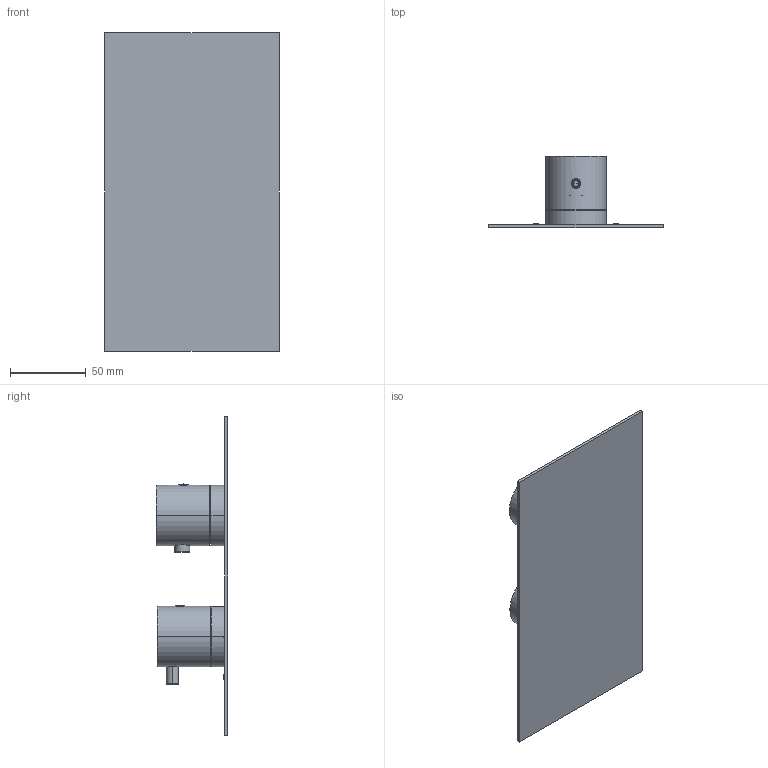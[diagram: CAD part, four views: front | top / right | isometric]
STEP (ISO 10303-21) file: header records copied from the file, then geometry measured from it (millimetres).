
FILE_DESCRIPTION((''),'2;1');
FILE_NAME('69712V221_SW0001','2025-11-20T10:38:13',('carloff'),(''),'CREO PARAMETRIC BY PTC INC, 2022014','CREO PARAMETRIC BY PTC INC, 2022014','');
FILE_SCHEMA(('CONFIG_CONTROL_DESIGN'));
Length unit declared in the file: millimetre
Products named in the file (1): 69712V221_SW0001
Bounding box: 115 x 47 x 210 mm (x, y, z)
Volume: 149896.7 mm3; surface area: 67893.2 mm2
Topology: 1 solids, 1 shells, 139 faces, 340 edges, 213 vertices
Faces by surface type: cylinder 55, plane 52, torus 18, cone 10, sphere 4
Entity records: 4818 total; most frequent: CARTESIAN_POINT 1495, DIRECTION 703, ORIENTED_EDGE 668, EDGE_CURVE 334, AXIS2_PLACEMENT_3D 282, VERTEX_POINT 213, EDGE_LOOP 163, CIRCLE 143
